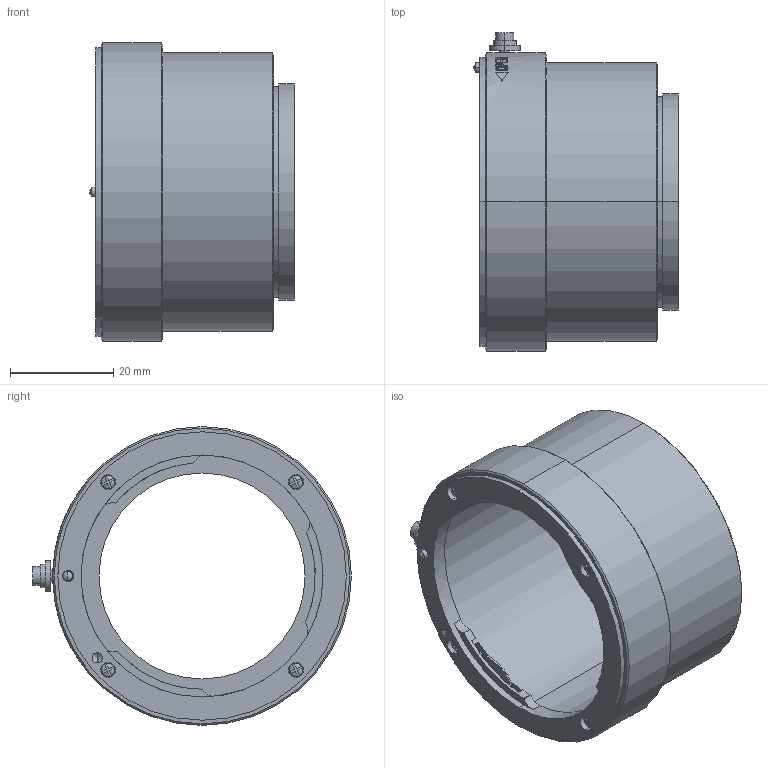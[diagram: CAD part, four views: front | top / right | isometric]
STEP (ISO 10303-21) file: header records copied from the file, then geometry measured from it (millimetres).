
FILE_DESCRIPTION (( 'STEP AP203' ), '1' );
FILE_NAME ('噩芛蛌諉遠M42X1-F-T34.5.STEP', '2019-02-26T16:11:06', ( '' ), ( '' ), 'SwSTEP 2.0', 'SolidWorks 2015', '' );
FILE_SCHEMA (( 'CONFIG_CONTROL_DESIGN' ));
Length unit declared in the file: millimetre
Products named in the file (8): F蛌諉; 痄雄蹟佪; 2.0隅弇种; M1.6-3.8; 陔粟え; 粟銅4.5; 噩芛蛌諉遠M42X1-F-T34.5; 縐諳
Assembly tree (10 placements, depth 2):
  噩芛蛌諉遠M42X1-F-T34.5
    F蛌諉
    痄雄蹟佪
    2.0隅弇种
    粟銅4.5
    縐諳
    M1.6-3.8  x4
    陔粟え
Bounding box: 39.7 x 61.9 x 58 mm (x, y, z)
Volume: 21193.7 mm3; surface area: 19366.7 mm2
Topology: 10 solids, 10 shells, 408 faces, 1061 edges, 693 vertices
Faces by surface type: cylinder 164, plane 161, bspline 41, torus 24, cone 18
Entity records: 17857 total; most frequent: CARTESIAN_POINT 8751, ORIENTED_EDGE 1734, DIRECTION 1673, EDGE_CURVE 867, AXIS2_PLACEMENT_3D 661, VERTEX_POINT 573, EDGE_LOOP 390, VECTOR 351
